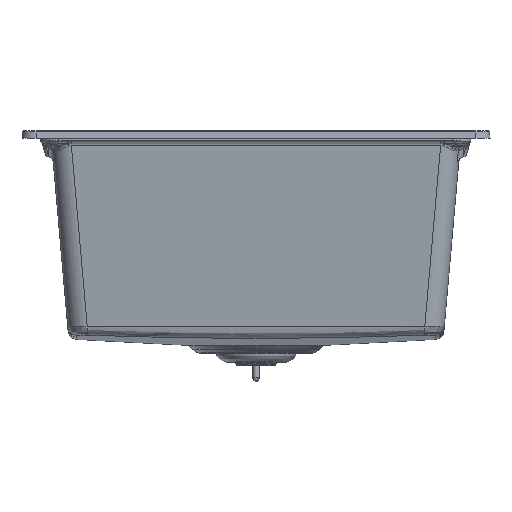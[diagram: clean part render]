
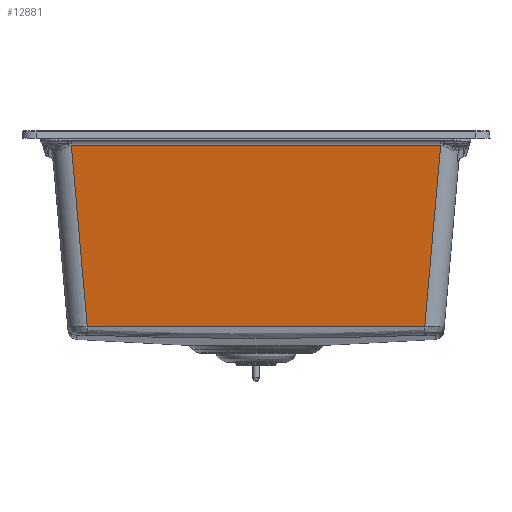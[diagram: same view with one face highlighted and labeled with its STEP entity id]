
A CAD part, front view. The second image highlights one B-rep face of the part: STEP entity #12881.
In plain terms, the highlighted planar face has unit normal (0, -0.996, -0.087).
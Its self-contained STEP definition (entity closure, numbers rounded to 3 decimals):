
#12881=ADVANCED_FACE('',(#14721),#38450,.T.);
#14721=FACE_OUTER_BOUND('',#16625,.T.);
#16625=EDGE_LOOP('',(#22833,#22834,#22835,#22836));
#22833=ORIENTED_EDGE('',*,*,#29927,.T.);
#22834=ORIENTED_EDGE('',*,*,#29960,.T.);
#22835=ORIENTED_EDGE('',*,*,#30191,.T.);
#22836=ORIENTED_EDGE('',*,*,#29952,.F.);
#29927=EDGE_CURVE('',#36864,#36863,#33801,.T.);
#29952=EDGE_CURVE('',#36864,#36876,#33808,.T.);
#29960=EDGE_CURVE('',#36863,#36882,#33813,.T.);
#30191=EDGE_CURVE('',#36882,#36876,#33915,.T.);
#33801=B_SPLINE_CURVE_WITH_KNOTS('',1,(#94515,#94516),.UNSPECIFIED.,.F.,
 .F.,(2,2),(-394.498,0.),.UNSPECIFIED.);
#33808=B_SPLINE_CURVE_WITH_KNOTS('',1,(#94599,#94600),.UNSPECIFIED.,.F.,
 .F.,(2,2),(0.,195.399),.UNSPECIFIED.);
#33813=B_SPLINE_CURVE_WITH_KNOTS('',1,(#94625,#94626),.UNSPECIFIED.,.F.,
 .F.,(2,2),(-195.399,0.),.UNSPECIFIED.);
#33915=B_SPLINE_CURVE_WITH_KNOTS('',3,(#95390,#95391,#95392,#95393,#95394,
#95395,#95396),.UNSPECIFIED.,.F.,.F.,(4,1,1,1,4),(-360.665,-257.618,
-206.094,-154.571,0.),.UNSPECIFIED.);
#36863=VERTEX_POINT('',#92356);
#36864=VERTEX_POINT('',#92357);
#36876=VERTEX_POINT('',#92369);
#36882=VERTEX_POINT('',#92375);
#38450=PLANE('',#41387);
#41387=AXIS2_PLACEMENT_3D('',#73152,#45082,$);
#45082=DIRECTION('',(0.,-0.996,-0.087));
#73152=CARTESIAN_POINT('',(224.819,-287.908,12.396));
#92356=CARTESIAN_POINT('',(-209.249,-286.169,-7.477));
#92357=CARTESIAN_POINT('',(185.249,-286.169,-7.477));
#92369=CARTESIAN_POINT('',(168.283,-269.203,-201.398));
#92375=CARTESIAN_POINT('',(-192.283,-269.203,-201.398));
#94515=CARTESIAN_POINT('',(185.249,-286.169,-7.477));
#94516=CARTESIAN_POINT('',(-209.249,-286.169,-7.477));
#94599=CARTESIAN_POINT('',(185.249,-286.169,-7.477));
#94600=CARTESIAN_POINT('',(168.283,-269.203,-201.398));
#94625=CARTESIAN_POINT('',(-209.249,-286.169,-7.477));
#94626=CARTESIAN_POINT('',(-192.283,-269.203,-201.398));
#95390=CARTESIAN_POINT('',(-192.283,-269.203,-201.398));
#95391=CARTESIAN_POINT('',(-157.955,-269.101,-202.565));
#95392=CARTESIAN_POINT('',(-106.453,-268.972,-204.035));
#95393=CARTESIAN_POINT('',(-37.762,-268.896,-204.904));
#95394=CARTESIAN_POINT('',(48.111,-268.896,-204.911));
#95395=CARTESIAN_POINT('',(116.791,-269.05,-203.148));
#95396=CARTESIAN_POINT('',(168.283,-269.203,-201.398));
